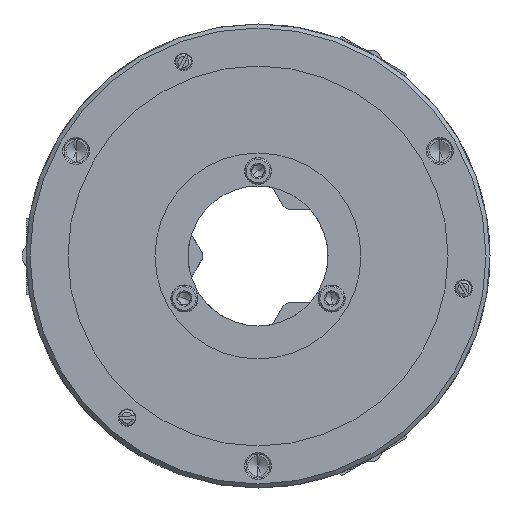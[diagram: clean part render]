
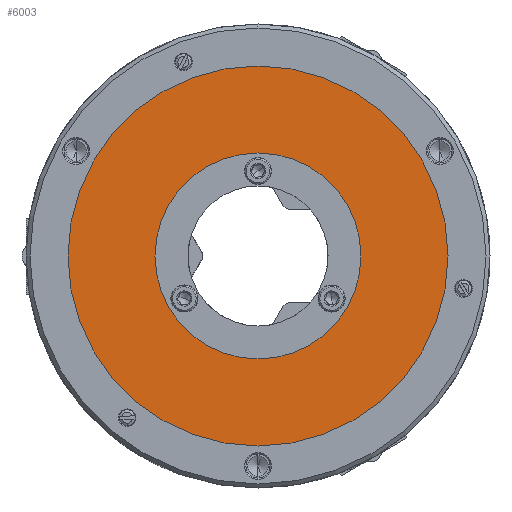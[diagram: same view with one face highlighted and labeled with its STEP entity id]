
A CAD part, left-side view. The second image highlights one B-rep face of the part: STEP entity #6003.
In plain terms, the highlighted planar face has unit normal (-1, 0, 0).
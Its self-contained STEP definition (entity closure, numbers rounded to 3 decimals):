
#526 = DIRECTION ( 'NONE',  ( 1., 0., 0. ) ) ;
#603 = CIRCLE ( 'NONE', #1501, 51.5 ) ;
#1501 = AXIS2_PLACEMENT_3D ( 'NONE', #7337, #6762, #30520 ) ;
#2194 = EDGE_CURVE ( 'NONE', #9064, #14239, #603, .T. ) ;
#4241 = CARTESIAN_POINT ( 'NONE',  ( -78., 0., 51.5 ) ) ;
#6003 = ADVANCED_FACE ( 'NONE', ( #28765, #11149 ), #26244, .T. ) ;
#6762 = DIRECTION ( 'NONE',  ( 1., 0., 0. ) ) ;
#6870 = VERTEX_POINT ( 'NONE', #30504 ) ;
#7337 = CARTESIAN_POINT ( 'NONE',  ( -78., 0., 0. ) ) ;
#8629 = CIRCLE ( 'NONE', #15985, 95. ) ;
#9064 = VERTEX_POINT ( 'NONE', #4241 ) ;
#11149 = FACE_OUTER_BOUND ( 'NONE', #25739, .T. ) ;
#11394 = CARTESIAN_POINT ( 'NONE',  ( -78., 0., 0. ) ) ;
#11708 = DIRECTION ( 'NONE',  ( -1., 0., 0. ) ) ;
#11749 = EDGE_CURVE ( 'NONE', #6870, #33572, #8629, .T. ) ;
#14239 = VERTEX_POINT ( 'NONE', #31303 ) ;
#14376 = ORIENTED_EDGE ( 'NONE', *, *, #27152, .T. ) ;
#14635 = EDGE_CURVE ( 'NONE', #33572, #6870, #21643, .T. ) ;
#15985 = AXIS2_PLACEMENT_3D ( 'NONE', #11394, #23057, #31697 ) ;
#16455 = CARTESIAN_POINT ( 'NONE',  ( -78., 0., 95. ) ) ;
#16675 = ORIENTED_EDGE ( 'NONE', *, *, #14635, .F. ) ;
#17059 = CIRCLE ( 'NONE', #26827, 51.5 ) ;
#17777 = DIRECTION ( 'NONE',  ( 0., 0., -1. ) ) ;
#21047 = AXIS2_PLACEMENT_3D ( 'NONE', #22809, #11708, #26056 ) ;
#21126 = EDGE_LOOP ( 'NONE', ( #14376, #31808 ) ) ;
#21643 = CIRCLE ( 'NONE', #33920, 95. ) ;
#22809 = CARTESIAN_POINT ( 'NONE',  ( -78., 47.5, -82.272 ) ) ;
#23057 = DIRECTION ( 'NONE',  ( 1., 0., 0. ) ) ;
#25739 = EDGE_LOOP ( 'NONE', ( #34835, #16675 ) ) ;
#26056 = DIRECTION ( 'NONE',  ( 0., 0., 1. ) ) ;
#26244 = PLANE ( 'NONE',  #21047 ) ;
#26425 = DIRECTION ( 'NONE',  ( 0., 0., -1. ) ) ;
#26827 = AXIS2_PLACEMENT_3D ( 'NONE', #32525, #526, #17777 ) ;
#27001 = CARTESIAN_POINT ( 'NONE',  ( -78., 0., 0. ) ) ;
#27152 = EDGE_CURVE ( 'NONE', #14239, #9064, #17059, .T. ) ;
#28765 = FACE_BOUND ( 'NONE', #21126, .T. ) ;
#29319 = DIRECTION ( 'NONE',  ( 1., 0., 0. ) ) ;
#30504 = CARTESIAN_POINT ( 'NONE',  ( -78., 0., -95. ) ) ;
#30520 = DIRECTION ( 'NONE',  ( 0., 0., -1. ) ) ;
#31303 = CARTESIAN_POINT ( 'NONE',  ( -78., 0., -51.5 ) ) ;
#31697 = DIRECTION ( 'NONE',  ( 0., 0., -1. ) ) ;
#31808 = ORIENTED_EDGE ( 'NONE', *, *, #2194, .T. ) ;
#32525 = CARTESIAN_POINT ( 'NONE',  ( -78., 0., 0. ) ) ;
#33572 = VERTEX_POINT ( 'NONE', #16455 ) ;
#33920 = AXIS2_PLACEMENT_3D ( 'NONE', #27001, #29319, #26425 ) ;
#34835 = ORIENTED_EDGE ( 'NONE', *, *, #11749, .F. ) ;
